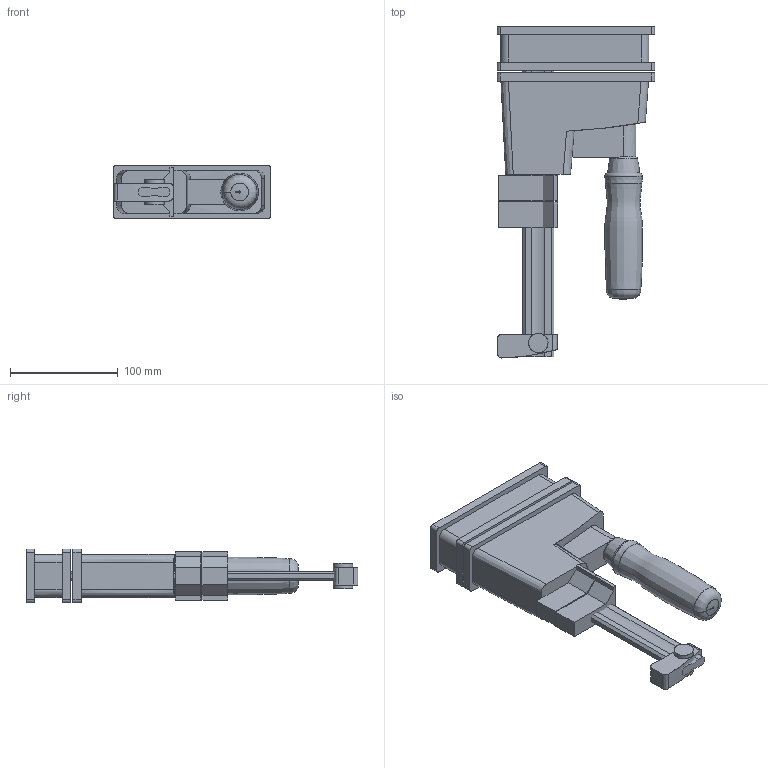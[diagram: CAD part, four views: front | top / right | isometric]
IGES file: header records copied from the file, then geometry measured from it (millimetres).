
Start section: ZWSOFT
Global section: file name: KR30-2K.igs; native system: ZW3D; preprocessor: 1.0; author: ZW3D; organization: ZWSOFT; date: 141017.100729; units: millimetre
Bounding box: 146 x 308.45 x 50 mm (x, y, z)
Surface area: 128642.5 mm2 (no closed solid volume)
Topology: 0 solids, 0 shells, 117 faces, 615 edges, 596 vertices
Faces by surface type: bspline 117
